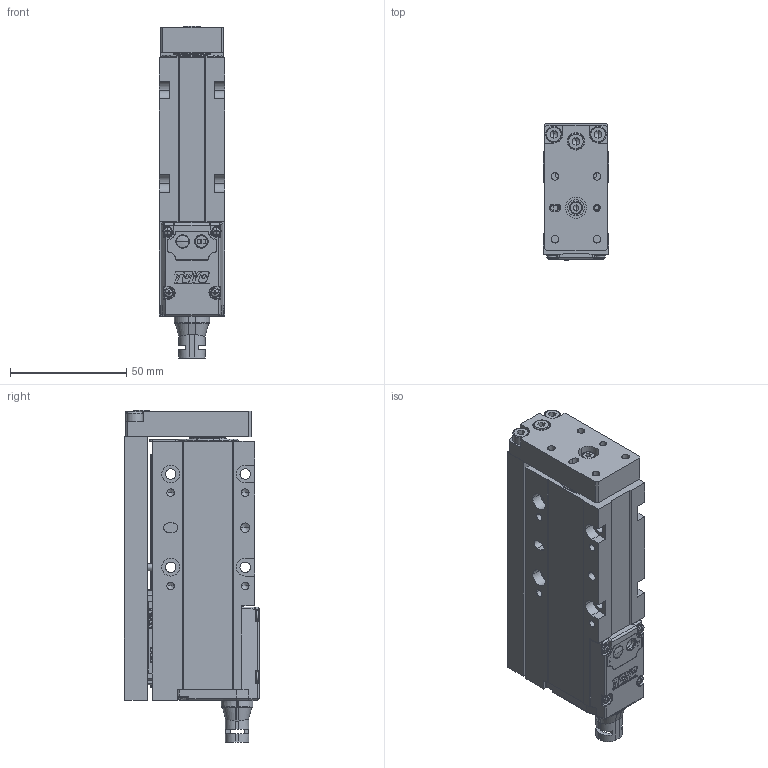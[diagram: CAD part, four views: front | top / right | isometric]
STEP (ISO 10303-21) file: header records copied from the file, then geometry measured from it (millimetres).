
FILE_DESCRIPTION (( 'STEP AP203' ), '1' );
FILE_NAME ('DMH25-50-3D外型.STEP', '2020-12-09T12:00:53', ( 'User' ), ( '' ), 'SwSTEP 2.0', 'SolidWorks 2020', '' );
FILE_SCHEMA (( 'CONFIG_CONTROL_DESIGN' ));
Length unit declared in the file: millimetre
Products named in the file (38): _X2_96F64EF6_X0_4174; _X2_96F64EF6_X0_1646; _X2_96F64EF6_X0_4188; _X2_96F64EF6_X0_1670; _X2_96F64EF6_X0_4314; _X2_96F64EF6_X0_1630; _X2_96F64EF6_X0_4176; _X2_96F64EF6_X0_1650; _X2_96F64EF6_X0_4190; _X2_96F64EF6_X0_1672; _X2_96F64EF6_X0_4316; _X2_96F64EF6_X0_1636; _X2_96F64EF6_X0_4178; _X2_96F64EF6_X0_1654; _X2_96F64EF6_X0_4162; DMH25-50-3D外型; _X2_96F64EF6_X0_4318; _X2_96F64EF6_X0_1638; _X2_96F64EF6_X0_4180; _X2_96F64EF6_X0_1658; _X2_96F64EF6_X0_4164; _X2_96F64EF6_X0_4322; _X2_96F64EF6_X0_1640; _X2_96F64EF6_X0_4182; _X2_96F64EF6_X0_1662; _X2_96F64EF6_X0_4166; _X2_96F64EF6_X0_4324; _X2_96F64EF6_X0_1642; _X2_96F64EF6_X0_4184; _X2_96F64EF6_X0_1666; _X2_96F64EF6_X0_4168; _X2_96F64EF6_X0_4326; DMH25-50_X2_672C9AD4_X0_; _X2_96F64EF6_X0_1644; _X2_96F64EF6_X0_4186; _X2_96F64EF6_X0_1668; _X2_96F64EF6_X0_4172; _X2_96F64EF6_X0_4328
Assembly tree (37 placements, depth 2):
  DMH25-50-3D外型
    DMH25-50_X2_672C9AD4_X0_
    _X2_96F64EF6_X0_4174
    _X2_96F64EF6_X0_4176
    _X2_96F64EF6_X0_4178
    _X2_96F64EF6_X0_4180
    _X2_96F64EF6_X0_4182
    _X2_96F64EF6_X0_4184
    _X2_96F64EF6_X0_4186
    _X2_96F64EF6_X0_4188
    _X2_96F64EF6_X0_4190
    _X2_96F64EF6_X0_4162
    _X2_96F64EF6_X0_4164
    _X2_96F64EF6_X0_4166
    _X2_96F64EF6_X0_4168
    _X2_96F64EF6_X0_4172
    _X2_96F64EF6_X0_4314
    _X2_96F64EF6_X0_4316
    _X2_96F64EF6_X0_4318
    _X2_96F64EF6_X0_4322
    _X2_96F64EF6_X0_4324
    _X2_96F64EF6_X0_4326
    _X2_96F64EF6_X0_4328
    _X2_96F64EF6_X0_1630
    _X2_96F64EF6_X0_1636
    _X2_96F64EF6_X0_1638
    _X2_96F64EF6_X0_1640
    _X2_96F64EF6_X0_1642
    _X2_96F64EF6_X0_1644
    _X2_96F64EF6_X0_1646
    _X2_96F64EF6_X0_1650
    _X2_96F64EF6_X0_1654
    _X2_96F64EF6_X0_1658
    _X2_96F64EF6_X0_1662
    _X2_96F64EF6_X0_1666
    _X2_96F64EF6_X0_1668
    _X2_96F64EF6_X0_1670
    _X2_96F64EF6_X0_1672
Bounding box: 28 x 58.3 x 142.5 mm (x, y, z)
Volume: 172311.1 mm3; surface area: 73087.9 mm2
Topology: 37 solids, 40 shells, 2262 faces, 5887 edges, 3752 vertices
Faces by surface type: plane 1150, cylinder 431, bspline 359, cone 322
Entity records: 105193 total; most frequent: CARTESIAN_POINT 48021, ORIENTED_EDGE 11600, DIRECTION 9977, EDGE_CURVE 5800, VERTEX_POINT 3748, LINE 3647, VECTOR 3647, AXIS2_PLACEMENT_3D 3165
